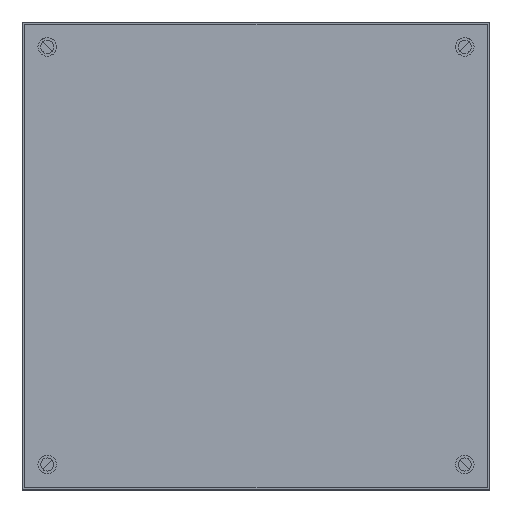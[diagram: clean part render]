
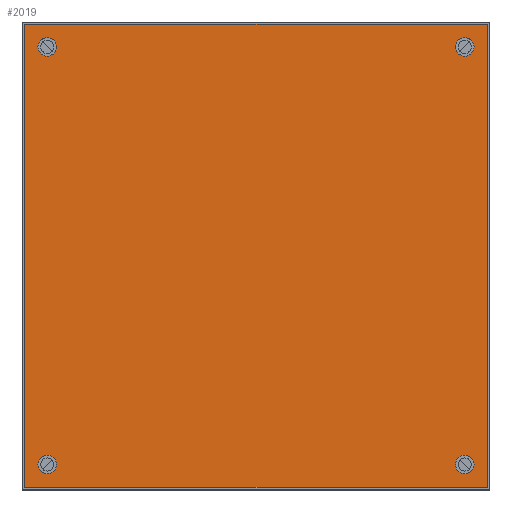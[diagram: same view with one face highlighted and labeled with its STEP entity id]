
A CAD part, top view. The second image highlights one B-rep face of the part: STEP entity #2019.
In plain terms, the highlighted planar face has unit normal (0, 0, 1).
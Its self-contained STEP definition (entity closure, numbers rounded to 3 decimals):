
#183=CIRCLE('',#2823,3.);
#185=CIRCLE('',#2826,3.);
#187=CIRCLE('',#2829,3.);
#189=CIRCLE('',#2832,3.);
#685=ORIENTED_EDGE('',*,*,#971,.F.);
#686=ORIENTED_EDGE('',*,*,#969,.F.);
#687=ORIENTED_EDGE('',*,*,#967,.F.);
#688=ORIENTED_EDGE('',*,*,#965,.F.);
#689=ORIENTED_EDGE('',*,*,#972,.F.);
#690=ORIENTED_EDGE('',*,*,#973,.F.);
#691=ORIENTED_EDGE('',*,*,#963,.F.);
#692=ORIENTED_EDGE('',*,*,#974,.F.);
#963=EDGE_CURVE('',#1148,#1149,#1310,.T.);
#965=EDGE_CURVE('',#1150,#1150,#183,.T.);
#967=EDGE_CURVE('',#1152,#1152,#185,.T.);
#969=EDGE_CURVE('',#1154,#1154,#187,.T.);
#971=EDGE_CURVE('',#1156,#1156,#189,.T.);
#972=EDGE_CURVE('',#1157,#1158,#1312,.T.);
#973=EDGE_CURVE('',#1149,#1157,#1313,.T.);
#974=EDGE_CURVE('',#1158,#1148,#1314,.T.);
#1148=VERTEX_POINT('',#4039);
#1149=VERTEX_POINT('',#4041);
#1150=VERTEX_POINT('',#4045);
#1152=VERTEX_POINT('',#4050);
#1154=VERTEX_POINT('',#4055);
#1156=VERTEX_POINT('',#4060);
#1157=VERTEX_POINT('',#4062);
#1158=VERTEX_POINT('',#4063);
#1310=LINE('',#4040,#1462);
#1312=LINE('',#4061,#1464);
#1313=LINE('',#4064,#1465);
#1314=LINE('',#4065,#1466);
#1462=VECTOR('',#3358,1000.);
#1464=VECTOR('',#3382,1000.);
#1465=VECTOR('',#3383,1000.);
#1466=VECTOR('',#3384,1000.);
#1623=EDGE_LOOP('',(#685));
#1624=EDGE_LOOP('',(#686));
#1625=EDGE_LOOP('',(#687));
#1626=EDGE_LOOP('',(#688));
#1627=EDGE_LOOP('',(#689,#690,#691,#692));
#1804=FACE_BOUND('',#1623,.T.);
#1805=FACE_BOUND('',#1624,.T.);
#1806=FACE_BOUND('',#1625,.T.);
#1807=FACE_BOUND('',#1626,.T.);
#1808=FACE_BOUND('',#1627,.T.);
#1900=PLANE('',#2831);
#2019=ADVANCED_FACE('',(#1804,#1805,#1806,#1807,#1808),#1900,.F.);
#2823=AXIS2_PLACEMENT_3D('',#4044,#3362,#3363);
#2826=AXIS2_PLACEMENT_3D('',#4049,#3368,#3369);
#2829=AXIS2_PLACEMENT_3D('',#4054,#3374,#3375);
#2831=AXIS2_PLACEMENT_3D('',#4058,#3378,#3379);
#2832=AXIS2_PLACEMENT_3D('',#4059,#3380,#3381);
#3358=DIRECTION('',(1.,0.,0.));
#3362=DIRECTION('',(0.,0.,1.));
#3363=DIRECTION('',(0.,1.,0.));
#3368=DIRECTION('',(0.,0.,1.));
#3369=DIRECTION('',(0.,1.,0.));
#3374=DIRECTION('',(0.,0.,1.));
#3375=DIRECTION('',(0.,1.,0.));
#3378=DIRECTION('',(0.,0.,-1.));
#3379=DIRECTION('',(-1.,0.,0.));
#3380=DIRECTION('',(0.,0.,1.));
#3381=DIRECTION('',(0.,1.,0.));
#3382=DIRECTION('',(-1.,0.,0.));
#3383=DIRECTION('',(0.,-1.,0.));
#3384=DIRECTION('',(0.,1.,0.));
#4039=CARTESIAN_POINT('',(-74.25,74.25,0.));
#4040=CARTESIAN_POINT('',(-74.25,74.25,0.));
#4041=CARTESIAN_POINT('',(74.25,74.25,0.));
#4044=CARTESIAN_POINT('',(-67.,-67.,0.));
#4045=CARTESIAN_POINT('',(-67.,-64.,0.));
#4049=CARTESIAN_POINT('',(-67.,67.,0.));
#4050=CARTESIAN_POINT('',(-67.,70.,0.));
#4054=CARTESIAN_POINT('',(67.,-67.,0.));
#4055=CARTESIAN_POINT('',(67.,-64.,0.));
#4058=CARTESIAN_POINT('',(0.,0.,0.));
#4059=CARTESIAN_POINT('',(67.,67.,0.));
#4060=CARTESIAN_POINT('',(67.,70.,0.));
#4061=CARTESIAN_POINT('',(74.25,-74.25,0.));
#4062=CARTESIAN_POINT('',(74.25,-74.25,0.));
#4063=CARTESIAN_POINT('',(-74.25,-74.25,0.));
#4064=CARTESIAN_POINT('',(74.25,74.25,0.));
#4065=CARTESIAN_POINT('',(-74.25,-74.25,0.));
